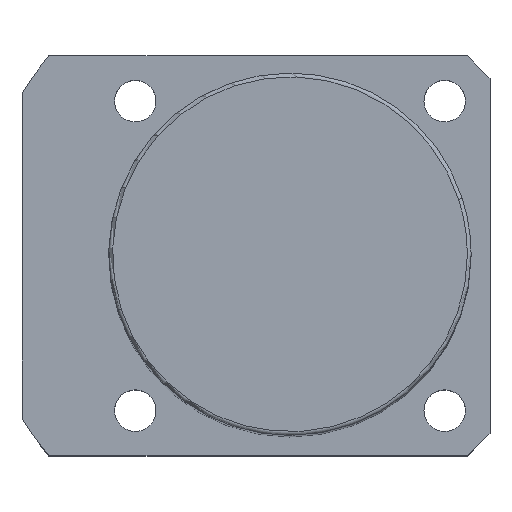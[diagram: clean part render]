
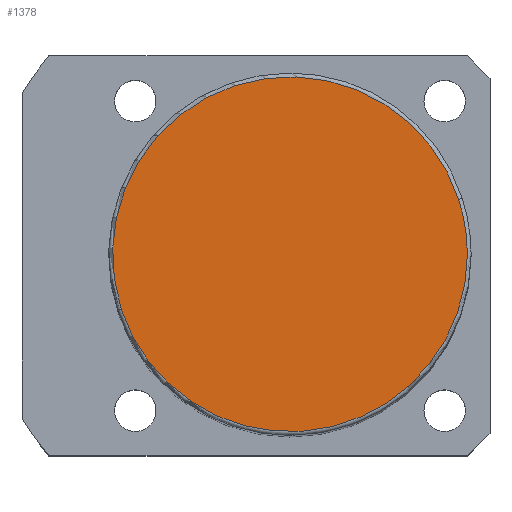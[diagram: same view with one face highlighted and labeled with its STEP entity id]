
A CAD part, top view. The second image highlights one B-rep face of the part: STEP entity #1378.
In plain terms, the highlighted planar face has unit normal (0, 0, 1).
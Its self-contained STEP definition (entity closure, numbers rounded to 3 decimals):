
#1344=CARTESIAN_POINT('',(23.5,0.0,134.0));
#1345=VERTEX_POINT('',#1344);
#1346=CARTESIAN_POINT('',(22.35,7.262,134.0));
#1347=VERTEX_POINT('',#1346);
#1348=CARTESIAN_POINT('',(0.0,0.0,134.0));
#1349=DIRECTION('',(0.0,0.0,1.0));
#1350=DIRECTION('',(1.0,0.0,0.0));
#1351=AXIS2_PLACEMENT_3D('',#1348,#1349,#1350);
#1352=CIRCLE('',#1351,23.5);
#1353=EDGE_CURVE('no 1868',#1345,#1347,#1352,.T.);
#1354=ORIENTED_EDGE('',*,*,#1353,.T.);
#1355=CARTESIAN_POINT('',(-22.35,-7.262,134.0));
#1356=VERTEX_POINT('',#1355);
#1357=CARTESIAN_POINT('',(0.0,0.0,134.0));
#1358=DIRECTION('',(0.0,0.0,1.0));
#1359=DIRECTION('',(1.0,0.0,0.0));
#1360=AXIS2_PLACEMENT_3D('',#1357,#1358,#1359);
#1361=CIRCLE('',#1360,23.5);
#1362=EDGE_CURVE('no 1874',#1347,#1356,#1361,.T.);
#1363=ORIENTED_EDGE('',*,*,#1362,.T.);
#1364=CARTESIAN_POINT('',(0.0,0.0,134.0));
#1365=DIRECTION('',(0.0,0.0,1.0));
#1366=DIRECTION('',(1.0,0.0,0.0));
#1367=AXIS2_PLACEMENT_3D('',#1364,#1365,#1366);
#1368=CIRCLE('',#1367,23.5);
#1369=EDGE_CURVE('no 1878',#1356,#1345,#1368,.T.);
#1370=ORIENTED_EDGE('',*,*,#1369,.T.);
#1371=EDGE_LOOP('',(#1354,#1363,#1370));
#1372=FACE_OUTER_BOUND('',#1371,.T.);
#1373=CARTESIAN_POINT('',(0.0,0.0,134.0));
#1374=DIRECTION('',(0.0,0.0,1.0));
#1375=DIRECTION('',(1.0,0.0,0.0));
#1376=AXIS2_PLACEMENT_3D('',#1373,#1374,#1375);
#1377=PLANE('',#1376);
#1378=ADVANCED_FACE('no 1859',(#1372),#1377,.T.);
